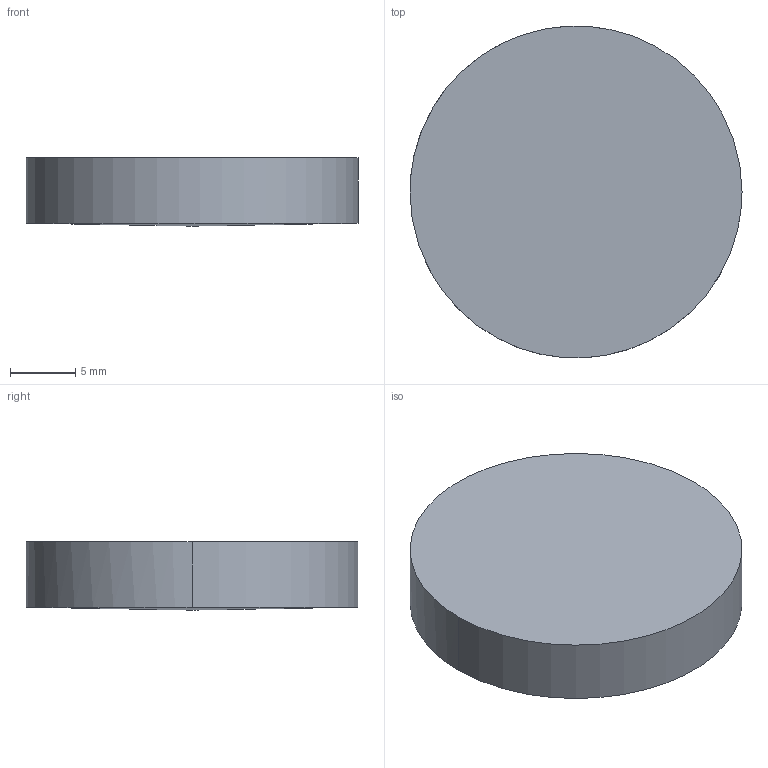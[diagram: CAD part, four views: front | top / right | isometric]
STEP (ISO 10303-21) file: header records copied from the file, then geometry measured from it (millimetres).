
FILE_DESCRIPTION ((), '1');
FILE_NAME ('\\fileserver\Daten\Applikationen\Optikdesign\SPA-Design\aktuelle SPA-Designs\Linsenkataloge - 2016-Juni\Zemax\XFL\XFL25-010.STP', '2016-05-24T14:28:36', ('Unknown'), ('Unknown'), 'HarmonyWare STEP v2.0.1', 'HarmonyWare Translators', '');
FILE_SCHEMA (('CONFIG_CONTROL_DESIGN'));
Length unit declared in the file: millimetre
Products named in the file (1): NONE
Bounding box: 25.4 x 25.39 x 5.22 mm (x, y, z)
Volume: 2571.5 mm3; surface area: 1413.2 mm2
Topology: 1 solids, 1 shells, 4 faces, 9 edges, 6 vertices
Faces by surface type: cylinder 2, bspline 1, plane 1
Entity records: 265 total; most frequent: CARTESIAN_POINT 114, ORIENTED_EDGE 16, EDGE_CURVE 8, PERSON 8, ORGANIZATION 8, PERSON_AND_ORGANIZATION 8, VERTEX_POINT 6, DIRECTION 6
